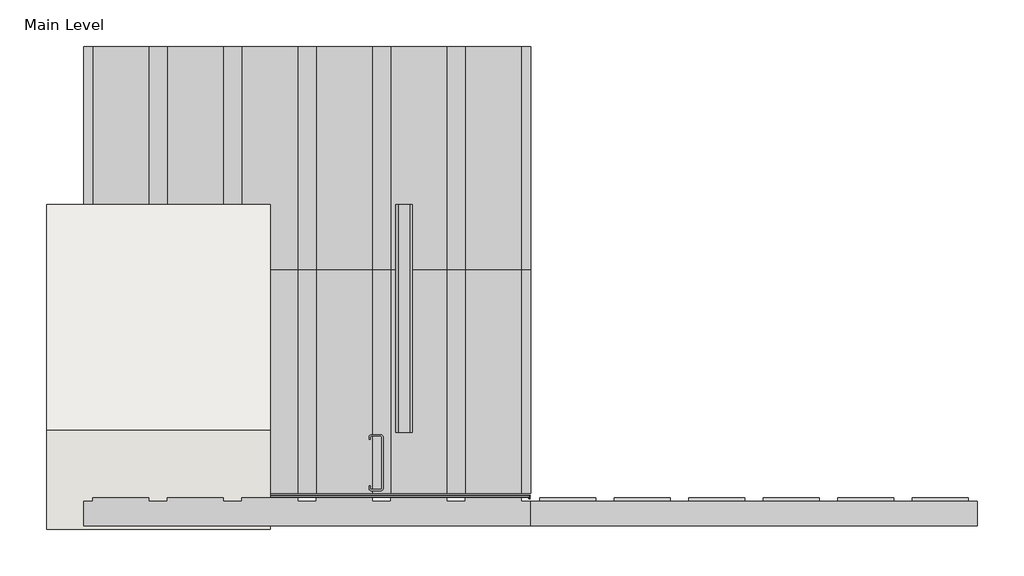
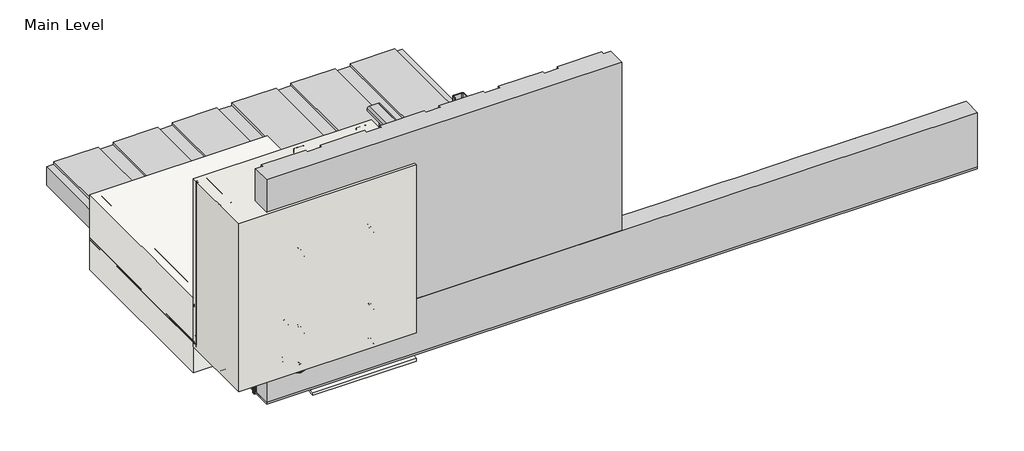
# One storey, incomplete: 28 proxies, 2 coverings, 2 walls.
"""IFC4 building model written with IfcOpenShell, lengths in millimetres."""

from ifc_helpers import new_model, si_unit, frame, origin, origin_with_axes, place, context, project, spatial, polyline, outline, extrude, transform, mapped, element, save
from components import generic_models_8c792c9c, generic_models_61840a3c, generic_models_2e656d56, generic_models_47e8b319, proxy_b68172d9, proxy_691c8b69, proxy_63d6b373, soffit_box_soffit_box_3929802c, top_adhesive_top_adhesive_4fbfd34a, wood_blocking_c9818c35, wood_blocking_63bdfc83

model = new_model("IFC4")

# Units and contexts
model_context = context("Model", 3, world=origin())
ifc_project = project(units=[si_unit("LENGTHUNIT", "METRE", prefix="MILLI")], contexts=[model_context])

# Site, building, storey
site = spatial("IfcSite", under=ifc_project)
building = spatial("IfcBuilding", under=site)
storey = spatial("IfcBuildingStorey", under=building, Name="Main Level", Elevation=0.0)

# Proxies
placement = place(None, origin())
generic_models_shape = generic_models_8c792c9c(model_context)
element("IfcBuildingElementProxy", 1, Name="Durabond Generic Model Screw w Standard Wall Plate : Durabond Generic Model Screw w Standard Wall Plate", ObjectType="Durabond Generic Model Screw w Standard Wall Plate : Durabond Generic Model Screw w Standard Wall Plate", at=placement, inside=storey, context=model_context, shape_type="MappedRepresentation", body=[
    mapped(generic_models_shape, transform((26653.4789273, 547.4628797, 47.625), x_axis=(1.0, 0.0, 0.0), y_axis=(0.0, 0.0, 1.0), z_axis=(0.0, -1.0, 0.0))),
])
element("IfcBuildingElementProxy", 2, Name="Durabond Generic Model Screw w Standard Wall Plate : Durabond Generic Model Screw w Standard Wall Plate", ObjectType="Durabond Generic Model Screw w Standard Wall Plate : Durabond Generic Model Screw w Standard Wall Plate", at=placement, inside=storey, context=model_context, shape_type="MappedRepresentation", body=[
    mapped(generic_models_shape, transform((26705.0726773, 544.2878797, 15.875), x_axis=(1.0, 0.0, 0.0), y_axis=(0.0, 0.0, 1.0), z_axis=(0.0, -1.0, 0.0))),
])
element("IfcBuildingElementProxy", 3, Name="Durabond Generic Model Screw w Standard Wall Plate : Durabond Generic Model Screw w Standard Wall Plate", ObjectType="Durabond Generic Model Screw w Standard Wall Plate : Durabond Generic Model Screw w Standard Wall Plate", at=placement, inside=storey, context=model_context, shape_type="MappedRepresentation", body=[
    mapped(generic_models_shape, transform((26653.4789273, 687.9566297, -86.51875), x_axis=(-1.0, 0.0, 0.0), y_axis=(0.0, 1.0, 0.0), z_axis=(0.0, 0.0, -1.0))),
])
element("IfcBuildingElementProxy", 4, Name="Durabond Generic Model Screw w Standard Wall Plate : Durabond Generic Model Screw w Standard Wall Plate", ObjectType="Durabond Generic Model Screw w Standard Wall Plate : Durabond Generic Model Screw w Standard Wall Plate", at=placement, inside=storey, context=model_context, shape_type="MappedRepresentation", body=[
    mapped(generic_models_shape, transform((26705.0726773, 662.5566297, -89.69375), x_axis=(-1.0, 0.0, 0.0), y_axis=(0.0, 1.0, 0.0), z_axis=(0.0, 0.0, -1.0))),
])
element("IfcBuildingElementProxy", 5, Name="Durabond Generic Model Screw w Standard Wall Plate : Durabond Generic Model Screw w Standard Wall Plate", ObjectType="Durabond Generic Model Screw w Standard Wall Plate : Durabond Generic Model Screw w Standard Wall Plate", at=placement, inside=storey, context=model_context, shape_type="MappedRepresentation", body=[
    mapped(generic_models_shape, transform((26653.4789273, 1195.9566297, -86.51875), x_axis=(-1.0, 0.0, 0.0), y_axis=(0.0, 1.0, 0.0), z_axis=(0.0, 0.0, -1.0))),
])
element("IfcBuildingElementProxy", 6, Name="Durabond Generic Model Screw w Standard Wall Plate : Durabond Generic Model Screw w Standard Wall Plate", ObjectType="Durabond Generic Model Screw w Standard Wall Plate : Durabond Generic Model Screw w Standard Wall Plate", at=placement, inside=storey, context=model_context, shape_type="MappedRepresentation", body=[
    mapped(generic_models_shape, transform((26653.4789273, 1297.5566297, -86.51875), x_axis=(-1.0, 0.0, 0.0), y_axis=(0.0, 1.0, 0.0), z_axis=(0.0, 0.0, -1.0))),
])
element("IfcBuildingElementProxy", 7, Name="Durabond Generic Model Screw w Standard Wall Plate : Durabond Generic Model Screw w Standard Wall Plate", ObjectType="Durabond Generic Model Screw w Standard Wall Plate : Durabond Generic Model Screw w Standard Wall Plate", at=placement, inside=storey, context=model_context, shape_type="MappedRepresentation", body=[
    mapped(generic_models_shape, transform((26705.0726773, 938.7816297, -89.69375), x_axis=(-1.0, 0.0, 0.0), y_axis=(0.0, 1.0, 0.0), z_axis=(0.0, 0.0, -1.0))),
])
element("IfcBuildingElementProxy", 8, Name="Durabond Generic Model Screw w Standard Wall Plate : Durabond Generic Model Screw w Standard Wall Plate", ObjectType="Durabond Generic Model Screw w Standard Wall Plate : Durabond Generic Model Screw w Standard Wall Plate", at=placement, inside=storey, context=model_context, shape_type="MappedRepresentation", body=[
    mapped(generic_models_shape, transform((26705.0726773, 1215.0066297, -89.69375), x_axis=(-1.0, 0.0, 0.0), y_axis=(0.0, 1.0, 0.0), z_axis=(0.0, 0.0, -1.0))),
])
element("IfcBuildingElementProxy", 9, Name="Durabond Generic Model Screw w Standard Wall Plate : Durabond Generic Model Screw w Standard Wall Plate", ObjectType="Durabond Generic Model Screw w Standard Wall Plate : Durabond Generic Model Screw w Standard Wall Plate", at=placement, inside=storey, context=model_context, shape_type="MappedRepresentation", body=[
    mapped(generic_models_shape, transform((26705.0726773, 1278.5066297, -89.69375), x_axis=(-1.0, 0.0, 0.0), y_axis=(0.0, 1.0, 0.0), z_axis=(0.0, 0.0, -1.0))),
])
element("IfcBuildingElementProxy", 10, Name="Durabond Generic Model Screw w Standard Wall Plate : Durabond Generic Model Screw w Standard Wall Plate", ObjectType="Durabond Generic Model Screw w Standard Wall Plate : Durabond Generic Model Screw w Standard Wall Plate", at=placement, inside=storey, context=model_context, shape_type="MappedRepresentation", body=[
    mapped(generic_models_shape, transform((26705.0726773, 544.2878797, 149.225), x_axis=(1.0, 0.0, 0.0), y_axis=(0.0, 0.0, 1.0), z_axis=(0.0, -1.0, 0.0))),
])
element("IfcBuildingElementProxy", 11, Name="Durabond Generic Model Screw w Standard Wall Plate : Durabond Generic Model Screw w Standard Wall Plate", ObjectType="Durabond Generic Model Screw w Standard Wall Plate : Durabond Generic Model Screw w Standard Wall Plate", at=placement, inside=storey, context=model_context, shape_type="MappedRepresentation", body=[
    mapped(generic_models_shape, transform((26705.0726773, 544.2878797, 428.625), x_axis=(1.0, 0.0, 0.0), y_axis=(0.0, 0.0, 1.0), z_axis=(0.0, -1.0, 0.0))),
])
element("IfcBuildingElementProxy", 12, Name="Durabond Generic Model Screw w Standard Wall Plate : Durabond Generic Model Screw w Standard Wall Plate", ObjectType="Durabond Generic Model Screw w Standard Wall Plate : Durabond Generic Model Screw w Standard Wall Plate", at=placement, inside=storey, context=model_context, shape_type="MappedRepresentation", body=[
    mapped(generic_models_shape, transform((26945.5789273, 544.2878797, 428.625), x_axis=(1.0, 0.0, 0.0), y_axis=(0.0, 0.0, 1.0), z_axis=(0.0, -1.0, 0.0))),
])
element("IfcBuildingElementProxy", 13, Name="Durabond Generic Model Screw w Standard Wall Plate : Durabond Generic Model Screw w Standard Wall Plate", ObjectType="Durabond Generic Model Screw w Standard Wall Plate : Durabond Generic Model Screw w Standard Wall Plate", at=placement, inside=storey, context=model_context, shape_type="MappedRepresentation", body=[
    mapped(generic_models_shape, transform((26653.4789273, 547.4628797, 193.675), x_axis=(1.0, 0.0, 0.0), y_axis=(0.0, 0.0, 1.0), z_axis=(0.0, -1.0, 0.0))),
])
element("IfcBuildingElementProxy", 14, Name="Durabond Generic Model Screw w Standard Wall Plate : Durabond Generic Model Screw w Standard Wall Plate", ObjectType="Durabond Generic Model Screw w Standard Wall Plate : Durabond Generic Model Screw w Standard Wall Plate", at=placement, inside=storey, context=model_context, shape_type="MappedRepresentation", body=[
    mapped(generic_models_shape, transform((26945.5789273, 544.2878797, 149.225), x_axis=(1.0, 0.0, 0.0), y_axis=(0.0, 0.0, 1.0), z_axis=(0.0, -1.0, 0.0))),
])
element("IfcBuildingElementProxy", 15, Name="Durabond Generic Model Screw w Standard Wall Plate : Durabond Generic Model Screw w Standard Wall Plate", ObjectType="Durabond Generic Model Screw w Standard Wall Plate : Durabond Generic Model Screw w Standard Wall Plate", at=placement, inside=storey, context=model_context, shape_type="MappedRepresentation", body=[
    mapped(generic_models_shape, transform((26945.5789273, 544.2878797, 23.8125), x_axis=(1.0, 0.0, 0.0), y_axis=(0.0, 0.0, 1.0), z_axis=(0.0, -1.0, 0.0))),
])
generic_models_2_shape = generic_models_61840a3c(model_context)
element("IfcBuildingElementProxy", 16, Name="CRAi Generic Model Metal Stud Array : CRAi Generic Model Metal Stud Array", ObjectType="CRAi Generic Model Metal Stud Array : CRAi Generic Model Metal Stud Array", at=placement, inside=storey, context=model_context, shape_type="MappedRepresentation", body=[
    mapped(generic_models_2_shape, transform((26675.0771569, 719.7066297, 15.875), x_axis=(-1.0, 0.0, 0.0), y_axis=(0.0, -1.0, 0.0), z_axis=(0.0, 0.0, 1.0))),
])
element("IfcBuildingElementProxy", 17, Name="CRAi Generic Model Metal Stud Array : CRAi Generic Model Metal Stud Array", ObjectType="CRAi Generic Model Metal Stud Array : CRAi Generic Model Metal Stud Array", at=placement, inside=storey, context=model_context, shape_type="MappedRepresentation", body=[
    mapped(generic_models_2_shape, transform((27221.1771569, 719.7066297, 15.875), x_axis=(-1.0, 0.0, 0.0), y_axis=(0.0, -1.0, 0.0), z_axis=(0.0, 0.0, 1.0))),
])
generic_models_3_shape = generic_models_2e656d56(model_context)
generic_models_4_shape = generic_models_47e8b319(model_context)
element("IfcBuildingElementProxy", 18, Name="Durabond Generic Soffit Drainage Vent : Durabond Generic Soffit Drainage Vent", ObjectType="Durabond Generic Soffit Drainage Vent : Durabond Generic Soffit Drainage Vent", at=placement, inside=storey, context=model_context, shape_type="MappedRepresentation", body=[
    mapped(generic_models_3_shape, transform((27199.3497774, 626.0441297, -93.6625), x_axis=(1.0, 0.0, 0.0), y_axis=(0.0, 1.0, 0.0), z_axis=(0.0, 0.0, 1.0))),
    mapped(generic_models_4_shape, transform((27199.3497774, 626.0441297, -93.6625), x_axis=(1.0, 0.0, 0.0), y_axis=(0.0, 1.0, 0.0), z_axis=(0.0, 0.0, 1.0))),
])
proxy_shape = proxy_b68172d9(model_context)
element("IfcBuildingElementProxy", 19, Name="Durabond Generic Model Insulite Select Extruded Insulation Board : 3\"", ObjectType="Durabond Generic Model Insulite Select Extruded Insulation Board : 3\"", at=placement, inside=storey, context=model_context, shape_type="MappedRepresentation", body=[
    mapped(proxy_shape, transform((27199.5789273, 624.4566297, 422.275), x_axis=(1.0, 0.0, 0.0), y_axis=(0.0, 0.0, 1.0), z_axis=(0.0, -1.0, 0.0))),
])
element("IfcBuildingElementProxy", 20, Name="Durabond Generic Model Insulite Select Extruded Insulation Board : 3\"", ObjectType="Durabond Generic Model Insulite Select Extruded Insulation Board : 3\"", at=placement, inside=storey, context=model_context, shape_type="MappedRepresentation", body=[
    mapped(proxy_shape, transform((27200.3726773, 941.9566297, -9.525), x_axis=(-1.0, 0.0, 0.0), y_axis=(0.0, 1.0, 0.0), z_axis=(0.0, 0.0, -1.0))),
])
element("IfcBuildingElementProxy", 21, Name="Durabond Generic Model Insulite Select Extruded Insulation Board : 3\"", ObjectType="Durabond Generic Model Insulite Select Extruded Insulation Board : 3\"", at=placement, inside=storey, context=model_context, shape_type="MappedRepresentation", body=[
    mapped(proxy_shape, transform((27200.3726773, 1551.5566297, -9.5089222), x_axis=(-1.0, 0.0, 0.0), y_axis=(0.0, 1.0, 0.0), z_axis=(0.0, 0.0, -1.0))),
])
proxy_2_shape = proxy_691c8b69(model_context)
element("IfcBuildingElementProxy", 22, Name="Durabond Generic Model Insulite Select Extruded Vent Board : 3\"", ObjectType="Durabond Generic Model Insulite Select Extruded Vent Board : 3\"", at=placement, inside=storey, context=model_context, shape_type="MappedRepresentation", body=[
    mapped(proxy_2_shape, transform((27809.1789273, 624.4566297, 15.875), x_axis=(1.0, 0.0, 0.0), y_axis=(0.0, 0.0, 1.0), z_axis=(0.0, -1.0, 0.0))),
])
proxy_3_shape = proxy_63d6b373(model_context)
element("IfcBuildingElementProxy", 23, Name="Durabond Generic Model Corner 90 Membrane : 4\" Barrier Seam Tape", ObjectType="Durabond Generic Model Corner 90 Membrane : 4\" Barrier Seam Tape", at=placement, inside=storey, context=model_context, shape_type="MappedRepresentation", body=[
    mapped(proxy_3_shape, transform((26514.5726773, 627.6316297, -6.35), x_axis=(0.0, 0.0, -1.0), y_axis=(0.0, 1.0, 0.0), z_axis=(1.0, 0.0, 0.0))),
])
soffit_box_soffit_box_shape = soffit_box_soffit_box_3929802c(model_context)
element("IfcBuildingElementProxy", 24, Name="Soffit Box : Soffit Box", ObjectType="Soffit Box : Soffit Box", at=placement, inside=storey, context=model_context, shape_type="MappedRepresentation", body=[
    mapped(soffit_box_soffit_box_shape, transform((0.0, 0.0, 0.0), x_axis=(1.0, 0.0, 0.0), y_axis=(0.0, 1.0, 0.0), z_axis=(0.0, 0.0, 1.0))),
])
element("IfcBuildingElementProxy", 25, Name="Soffit Box1 : Soffit Box", ObjectType="Soffit Box1 : Soffit Box", at=placement, inside=storey, context=model_context, shape_type="MappedRepresentation", body=[
    mapped(soffit_box_soffit_box_shape, transform((546.1, 0.0, 0.0), x_axis=(1.0, 0.0, 0.0), y_axis=(0.0, 1.0, 0.0), z_axis=(0.0, 0.0, 1.0))),
])
top_adhesive_top_adhesive_shape = top_adhesive_top_adhesive_4fbfd34a(model_context)
element("IfcBuildingElementProxy", 26, Name="Top Adhesive : Top Adhesive", ObjectType="Top Adhesive : Top Adhesive", at=placement, inside=storey, context=model_context, shape_type="MappedRepresentation", body=[
    mapped(top_adhesive_top_adhesive_shape, transform((0.0, 0.0, 0.0), x_axis=(1.0, 0.0, 0.0), y_axis=(0.0, 1.0, 0.0), z_axis=(0.0, 0.0, 1.0))),
])
wood_blocking_shape = wood_blocking_c9818c35(model_context)
element("IfcBuildingElementProxy", 27, Name="CRAi Generic Model Line Based Metal Framing Track : Wood Blocking", ObjectType="CRAi Generic Model Line Based Metal Framing Track : Wood Blocking", at=placement, inside=storey, context=model_context, shape_type="MappedRepresentation", body=[
    mapped(wood_blocking_shape, transform((26489.1726773, 643.5066297, 9.525), x_axis=(1.0, 0.0, 0.0), y_axis=(0.0, 1.0, 0.0), z_axis=(0.0, 0.0, 1.0))),
])
wood_blocking_2_shape = wood_blocking_63bdfc83(model_context)
element("IfcBuildingElementProxy", 28, Name="CRAi Generic Model Line Based Metal Framing Track : Wood Blocking", ObjectType="CRAi Generic Model Line Based Metal Framing Track : Wood Blocking", at=placement, inside=storey, context=model_context, shape_type="MappedRepresentation", body=[
    mapped(wood_blocking_2_shape, transform((26491.8622441, 795.9066297, 161.925), x_axis=(1.0, 0.0, 0.0), y_axis=(0.0, 0.0, -1.0), z_axis=(0.0, 1.0, 0.0))),
])

# Coverings
element("IfcCovering", 29, ObjectType="Durabond Detail Ceiling Metal Stud (Flexcrete) 2", at=placement, inside=storey, context=model_context, shape_type="SweptSolid", body=[
    extrude(outline(polyline([(27098.7726773, 808.6066297), (26489.1726773, 808.6066297), (26489.1726773, 1424.5566297), (27098.7726773, 1424.5566297), (27098.7726773, 808.6066297)])), frame((0.0, 0.0, -95.25), z_axis=(0.0, 0.0, 1.0), x_axis=(1.0, 0.0, 0.0)), (0.0, 0.0, 1.0), 273.05),
])
element("IfcCovering", 30, ObjectType="Durabond Stucco Lamina", at=placement, inside=storey, context=model_context, shape_type="SweptSolid", body=[
    extrude(outline(polyline([(538.7316297, -92.3552522), (614.9316297, -85.688616), (614.9316297, -95.25), (538.7316297, -101.9166362), (538.7316297, -92.3552522)])), frame((26743.1726773, 0.0, 0.0), z_axis=(1.0, 0.0, 0.0), x_axis=(0.0, 1.0, 0.0)), (0.0, 0.0, 1.0), 355.6),
])

# Walls
element("IfcWall", 31, ObjectType="189mm (7.5”) EIFS Field Applied on Mtl. Stud Layer - 50mm Grooved Insulation Board Metal Stud Wall(AirStop) 2", at=placement, inside=storey, context=model_context, shape_type="SweptSolid", body=[
    extrude(outline(polyline([(27098.7726773, 538.7316297), (26489.1726773, 538.7316297), (26489.1726773, 808.6066297), (27098.7726773, 808.6066297), (27098.7726773, 538.7316297)])), origin_with_axes(), (0.0, 0.0, 1.0), 609.6),
])
element("IfcWall", 32, ObjectType="Durabond Stucco System Lamina Back of Soffit", at=placement, inside=storey, context=model_context, shape_type="SweptSolid", body=[
    extrude(outline(polyline([(27098.7726773, 614.9316297), (26743.1726773, 614.9316297), (26743.1726773, 621.2816297), (27098.7726773, 621.2816297), (27098.7726773, 614.9316297)])), frame((0.0, 0.0, -98.425), z_axis=(0.0, 0.0, 1.0), x_axis=(1.0, 0.0, 0.0)), (0.0, 0.0, 1.0), 47.625),
])

save(model, "model.ifc")
